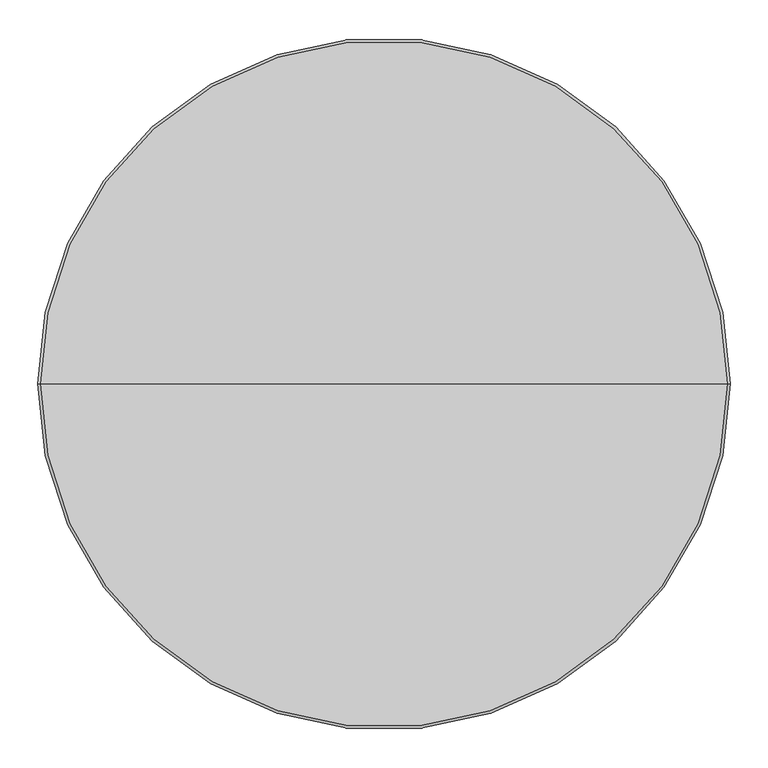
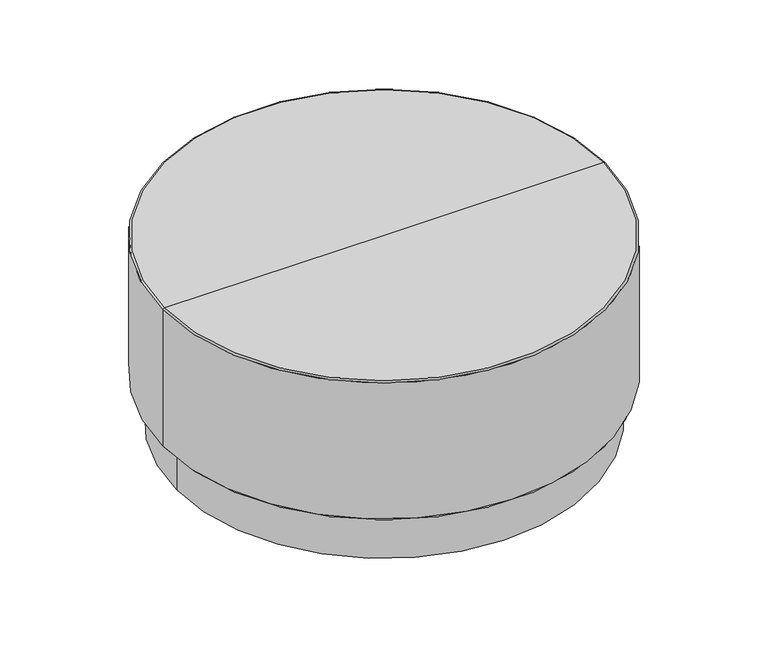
"""IFC4 building model written with IfcOpenShell, lengths in millimetres: furniture geometry, StanceHC-Drum_Table_Upholstered-Plinth_Base : DRT-36D-16-H."""

from ifc_helpers import new_model, si_unit, point, frame, frame_2d, origin, origin_with_axes, place, context, project, spatial, circle_curve, ellipse_curve, trimmed, segment, composite_curve, outline, extrude, source, transform, mapped, element, save
from ifc_brep_helpers import plane_surface, cylinder_surface, revolved_surface, advanced_brep


def furniture_cdabcaa1(model_context):
    return source(origin(), model_context, "Body", "SolidModel", [
        extrude(outline(composite_curve([segment(trimmed(circle_curve(frame_2d((0.0, 396.1664845)), 12.7), [point((-12.7, 396.1664845))], [point((12.7, 396.1664845))], False, "CARTESIAN"), True, "CONTINUOUS"), segment(trimmed(circle_curve(frame_2d((0.0, 396.1664845)), 12.7), [point((12.7, 396.1664845))], [point((-12.7, 396.1664845))], False, "CARTESIAN"), True, "CONTINUOUS")], self_intersect=False)), origin_with_axes(), (0.0, 0.0, 1.0), 4.7625),
        extrude(outline(composite_curve([segment(trimmed(circle_curve(frame_2d((0.0, -396.1664845)), 12.7), [point((-12.7, -396.1664845))], [point((12.7, -396.1664845))], False, "CARTESIAN"), True, "CONTINUOUS"), segment(trimmed(circle_curve(frame_2d((0.0, -396.1664845)), 12.7), [point((12.7, -396.1664845))], [point((-12.7, -396.1664845))], False, "CARTESIAN"), True, "CONTINUOUS")], self_intersect=False)), origin_with_axes(), (0.0, 0.0, 1.0), 4.7625),
        extrude(outline(composite_curve([segment(trimmed(circle_curve(frame_2d((400.0496404, 0.0)), 12.7), [point((387.3496404, 0.0))], [point((412.7496404, 0.0))], False, "CARTESIAN"), True, "CONTINUOUS"), segment(trimmed(circle_curve(frame_2d((400.0496404, 0.0)), 12.7), [point((412.7496404, 0.0))], [point((387.3496404, 0.0))], False, "CARTESIAN"), True, "CONTINUOUS")], self_intersect=False)), origin_with_axes(), (0.0, 0.0, 1.0), 4.7625),
        extrude(outline(composite_curve([segment(trimmed(circle_curve(frame_2d((-400.0496404, 0.0)), 12.7), [point((-412.7496404, 0.0))], [point((-387.3496404, 0.0))], False, "CARTESIAN"), True, "CONTINUOUS"), segment(trimmed(circle_curve(frame_2d((-400.0496404, 0.0)), 12.7), [point((-387.3496404, 0.0))], [point((-412.7496404, 0.0))], False, "CARTESIAN"), True, "CONTINUOUS")], self_intersect=False)), origin_with_axes(), (0.0, 0.0, 1.0), 4.7625),
        advanced_brep(
        [(-452.4042756, 0.0, 106.3625), (452.4042756, 0.0, 106.3625), (428.6246404, 0.0, 106.3625), (-428.6246404, 0.0, 106.3625), (-452.4042756, 0.0, 111.125), (452.4042756, 0.0, 111.125), (0.0, 0.0, 111.125), (-428.6246404, 0.0, 4.7625), (428.6246404, 0.0, 4.7625), (0.0, 0.0, 4.7625)],
        [
            (0, 1, circle_curve(frame((0.0, 0.0, 106.3625), z_axis=(0.0, 0.0, -1.0), x_axis=(1.0, 0.0, 0.0)), 452.4042756)),
            (1, 2),
            (2, 3, circle_curve(frame((0.0, 0.0, 106.3625), z_axis=(0.0, 0.0, 1.0), x_axis=(1.0, 0.0, 0.0)), 428.6246404)),
            (3, 0),
            (1, 0, circle_curve(frame((0.0, 0.0, 106.3625), z_axis=(0.0, 0.0, -1.0), x_axis=(1.0, 0.0, 0.0)), 452.4042756)),
            (3, 2, circle_curve(frame((0.0, 0.0, 106.3625), z_axis=(0.0, 0.0, 1.0), x_axis=(1.0, 0.0, 0.0)), 428.6246404)),
            (4, 5, circle_curve(frame((0.0, 0.0, 111.125), z_axis=(0.0, 0.0, -1.0), x_axis=(1.0, 0.0, 0.0)), 452.4042756)),
            (5, 1, circle_curve(frame((452.4042756, 0.0, 108.74375), z_axis=(0.0, 1.0, 0.0), x_axis=(1.0, 0.0, 0.0)), 2.38125)),
            (0, 4, circle_curve(frame((-452.4042756, 0.0, 108.74375), z_axis=(0.0, 1.0, 0.0), x_axis=(-1.0, 0.0, 0.0)), 2.38125)),
            (5, 4, circle_curve(frame((0.0, 0.0, 111.125), z_axis=(0.0, 0.0, -1.0), x_axis=(1.0, 0.0, 0.0)), 452.4042756)),
            (6, 5),
            (4, 6),
            (7, 8, circle_curve(frame((0.0, 0.0, 4.7625), z_axis=(0.0, 0.0, -1.0), x_axis=(1.0, 0.0, 0.0)), 428.6246404)),
            (8, 9),
            (9, 7),
            (8, 7, circle_curve(frame((0.0, 0.0, 4.7625), z_axis=(0.0, 0.0, -1.0), x_axis=(1.0, 0.0, 0.0)), 428.6246404)),
            (2, 8),
            (7, 3),
        ],
        [
            plane_surface(frame((0.0, 0.0, 106.3625), z_axis=(0.0, 0.0, -1.0), x_axis=(1.0, 0.0, 0.0))),
            revolved_surface(trimmed(ellipse_curve(frame((452.4042756, 0.0, 108.74375), z_axis=(0.0, -1.0, 0.0), x_axis=(1.0, 0.0, 0.0)), 2.38125, 2.38125), [point((452.4042756, 0.0, 106.3625))], [point((452.4042756, 0.0, 111.125))], True, "CARTESIAN"), (0.0, 0.0, 165.1), (0.0, 0.0, 1.0)),
            plane_surface(frame((0.0, 0.0, 111.125), z_axis=(0.0, 0.0, 1.0), x_axis=(1.0, 0.0, 0.0))),
            plane_surface(frame((0.0, 0.0, 4.7625), z_axis=(0.0, 0.0, -1.0), x_axis=(1.0, 0.0, 0.0))),
            cylinder_surface(frame((0.0, 0.0, 165.1), z_axis=(0.0, 0.0, 1.0), x_axis=(1.0, 0.0, 0.0)), 428.6246404),
        ],
        [
            (0, [[1, 2, 3, 4]]),
            (0, [[5, -4, 6, -2]]),
            (1, [[7, 8, -1, 9]]),
            (1, [[10, -9, -5, -8]]),
            (2, [[11, -7, 12]]),
            (2, [[-12, -10, -11]]),
            (3, [[13, 14, 15]]),
            (3, [[16, -15, -14]]),
            (4, [[-3, 17, -13, 18]]),
            (4, [[-6, -18, -16, -17]]),
        ],
    ),
        advanced_brep(
        [(-457.2, 0.0, 111.125), (457.2, 0.0, 111.125), (0.0, 0.0, 111.125), (-457.2, 0.0, 408.0389933), (457.2, 0.0, 408.0389933), (-454.0764933, 0.0, 411.1625), (454.0764933, 0.0, 411.1625), (0.0, 0.0, 411.1625)],
        [
            (0, 1, circle_curve(frame((0.0, 0.0, 111.125), z_axis=(0.0, 0.0, -1.0), x_axis=(1.0, 0.0, 0.0)), 457.2)),
            (1, 2),
            (2, 0),
            (1, 0, circle_curve(frame((0.0, 0.0, 111.125), z_axis=(0.0, 0.0, -1.0), x_axis=(1.0, 0.0, 0.0)), 457.2)),
            (3, 4, circle_curve(frame((0.0, 0.0, 408.0389933), z_axis=(0.0, 0.0, -1.0), x_axis=(1.0, 0.0, 0.0)), 457.2)),
            (4, 1),
            (0, 3),
            (4, 3, circle_curve(frame((0.0, 0.0, 408.0389933), z_axis=(0.0, 0.0, -1.0), x_axis=(1.0, 0.0, 0.0)), 457.2)),
            (5, 6, circle_curve(frame((0.0, 0.0, 411.1625), z_axis=(0.0, 0.0, -1.0), x_axis=(1.0, 0.0, 0.0)), 454.0764933)),
            (6, 4, circle_curve(frame((454.0764933, 0.0, 408.0389933), z_axis=(0.0, 1.0, 0.0), x_axis=(1.0, 0.0, 0.0)), 3.1235067)),
            (3, 5, circle_curve(frame((-454.0764933, 0.0, 408.0389933), z_axis=(0.0, 1.0, 0.0), x_axis=(-1.0, 0.0, 0.0)), 3.1235067)),
            (6, 5, circle_curve(frame((0.0, 0.0, 411.1625), z_axis=(0.0, 0.0, -1.0), x_axis=(1.0, 0.0, 0.0)), 454.0764933)),
            (7, 6),
            (5, 7),
        ],
        [
            plane_surface(frame((0.0, 0.0, 111.125), z_axis=(0.0, 0.0, -1.0), x_axis=(1.0, 0.0, 0.0))),
            cylinder_surface(frame((0.0, 0.0, 506.4125), z_axis=(0.0, 0.0, 1.0), x_axis=(1.0, 0.0, 0.0)), 457.2),
            revolved_surface(trimmed(ellipse_curve(frame((454.0764933, 0.0, 408.0389933), z_axis=(0.0, -1.0, 0.0), x_axis=(1.0, 0.0, 0.0)), 3.1235067, 3.1235067), [point((457.2, 0.0, 408.0389933))], [point((454.0764933, 0.0, 411.1625))], True, "CARTESIAN"), (0.0, 0.0, 506.4125), (0.0, 0.0, 1.0)),
            plane_surface(frame((0.0, 0.0, 411.1625), z_axis=(0.0, 0.0, 1.0), x_axis=(1.0, 0.0, 0.0))),
        ],
        [
            (0, [[1, 2, 3]]),
            (0, [[4, -3, -2]]),
            (1, [[5, 6, -1, 7]]),
            (1, [[8, -7, -4, -6]]),
            (2, [[9, 10, -5, 11]]),
            (2, [[12, -11, -8, -10]]),
            (3, [[13, -9, 14]]),
            (3, [[-14, -12, -13]]),
        ],
    ),
    ])


if __name__ == "__main__":
    model = new_model("IFC4")
    model_context = context("Model", 3, world=origin())
    ifc_project = project(units=[si_unit("LENGTHUNIT", "METRE", prefix="MILLI")], contexts=[model_context])
    site = spatial("IfcSite", under=ifc_project)
    building = spatial("IfcBuilding", under=site)
    placement = place(None, origin())
    furniture_shape = furniture_cdabcaa1(model_context)
    element("IfcFurniture", 1, ObjectType="StanceHC-Drum_Table_Upholstered-Plinth_Base : DRT-36D-16-H", at=placement, inside=building, context=model_context, shape_type="MappedRepresentation", body=[
        mapped(furniture_shape, transform((0.0, 0.0, 0.0), x_axis=(1.0, 0.0, 0.0), y_axis=(0.0, 1.0, 0.0), z_axis=(0.0, 0.0, 1.0))),
    ])
    save(model, "model.ifc")
